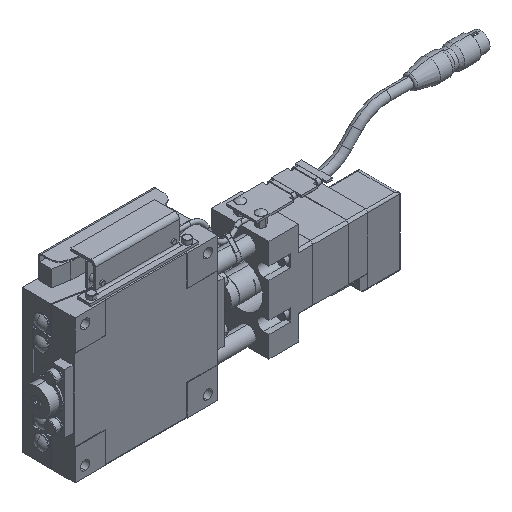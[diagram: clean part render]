
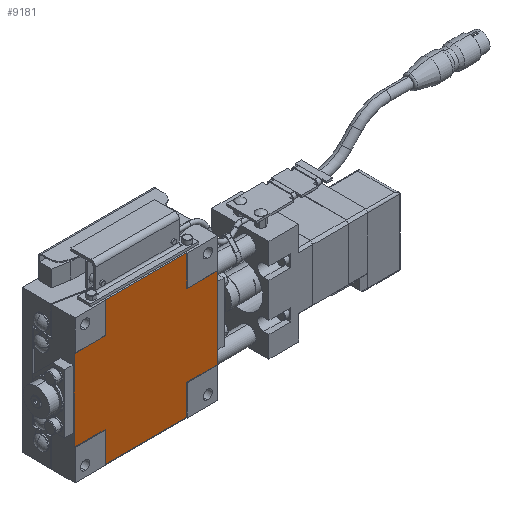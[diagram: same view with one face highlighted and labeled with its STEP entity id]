
A CAD part, isometric view. The second image highlights one B-rep face of the part: STEP entity #9181.
In plain terms, the highlighted planar face has unit normal (0, -1, 0).
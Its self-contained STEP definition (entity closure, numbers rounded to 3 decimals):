
#558 = DIRECTION ( 'NONE',  ( 1., 0., 0. ) ) ;
#786 = VECTOR ( 'NONE', #21781, 1000. ) ;
#1257 = DIRECTION ( 'NONE',  ( 0., 0., -1. ) ) ;
#1358 = ORIENTED_EDGE ( 'NONE', *, *, #14993, .T. ) ;
#1696 = VERTEX_POINT ( 'NONE', #21502 ) ;
#1925 = CARTESIAN_POINT ( 'NONE',  ( 20., 0.3, 20. ) ) ;
#2048 = DIRECTION ( 'NONE',  ( 0., 0., -1. ) ) ;
#2842 = CARTESIAN_POINT ( 'NONE',  ( -35., 0.3, -20. ) ) ;
#4796 = VECTOR ( 'NONE', #558, 1000. ) ;
#5062 = AXIS2_PLACEMENT_3D ( 'NONE', #22531, #22690, #8516 ) ;
#5277 = LINE ( 'NONE', #1925, #42211 ) ;
#5463 = LINE ( 'NONE', #26573, #24969 ) ;
#6609 = VERTEX_POINT ( 'NONE', #32260 ) ;
#7991 = EDGE_CURVE ( 'NONE', #16181, #26154, #29300, .T. ) ;
#8516 = DIRECTION ( 'NONE',  ( -1., 0., 0. ) ) ;
#8771 = DIRECTION ( 'NONE',  ( 0., 0., 1. ) ) ;
#8814 = CARTESIAN_POINT ( 'NONE',  ( -20., 0.3, 35. ) ) ;
#9181 = ADVANCED_FACE ( 'NONE', ( #11298 ), #19421, .F. ) ;
#9182 = DIRECTION ( 'NONE',  ( -1., 0., 0. ) ) ;
#9793 = ORIENTED_EDGE ( 'NONE', *, *, #33744, .T. ) ;
#10070 = EDGE_CURVE ( 'NONE', #6609, #40989, #27465, .T. ) ;
#11298 = FACE_OUTER_BOUND ( 'NONE', #45358, .T. ) ;
#12251 = CARTESIAN_POINT ( 'NONE',  ( -20., 0.3, -35. ) ) ;
#12277 = EDGE_CURVE ( 'NONE', #44286, #1696, #29457, .T. ) ;
#12953 = DIRECTION ( 'NONE',  ( 0., 0., 1. ) ) ;
#13042 = LINE ( 'NONE', #43147, #20801 ) ;
#13153 = LINE ( 'NONE', #44402, #38318 ) ;
#13569 = EDGE_CURVE ( 'NONE', #38823, #16181, #43870, .T. ) ;
#13985 = CARTESIAN_POINT ( 'NONE',  ( -35., 0.3, 20. ) ) ;
#14628 = EDGE_CURVE ( 'NONE', #26154, #17227, #32602, .T. ) ;
#14993 = EDGE_CURVE ( 'NONE', #27059, #44286, #13042, .T. ) ;
#15077 = CARTESIAN_POINT ( 'NONE',  ( 35., 0.3, -20. ) ) ;
#16181 = VERTEX_POINT ( 'NONE', #40412 ) ;
#17227 = VERTEX_POINT ( 'NONE', #33855 ) ;
#18128 = VERTEX_POINT ( 'NONE', #45424 ) ;
#18811 = DIRECTION ( 'NONE',  ( 1., 0., 0. ) ) ;
#19421 = PLANE ( 'NONE',  #5062 ) ;
#19943 = CARTESIAN_POINT ( 'NONE',  ( 20., 0.3, 35. ) ) ;
#20801 = VECTOR ( 'NONE', #32174, 1000. ) ;
#21502 = CARTESIAN_POINT ( 'NONE',  ( -20., 0.3, 35. ) ) ;
#21781 = DIRECTION ( 'NONE',  ( 0., 0., -1. ) ) ;
#21878 = ORIENTED_EDGE ( 'NONE', *, *, #14628, .T. ) ;
#21925 = CARTESIAN_POINT ( 'NONE',  ( 20., 0.3, -20. ) ) ;
#22378 = VERTEX_POINT ( 'NONE', #15077 ) ;
#22386 = ORIENTED_EDGE ( 'NONE', *, *, #13569, .T. ) ;
#22481 = EDGE_CURVE ( 'NONE', #22378, #18128, #13153, .T. ) ;
#22531 = CARTESIAN_POINT ( 'NONE',  ( 0., 0.3, 0. ) ) ;
#22690 = DIRECTION ( 'NONE',  ( 0., 1., 0. ) ) ;
#22823 = CARTESIAN_POINT ( 'NONE',  ( -35., 0.3, -20. ) ) ;
#23046 = CARTESIAN_POINT ( 'NONE',  ( -35., 0.3, 20. ) ) ;
#23165 = EDGE_CURVE ( 'NONE', #1696, #6609, #5463, .T. ) ;
#23425 = CARTESIAN_POINT ( 'NONE',  ( -20., 0.3, -35. ) ) ;
#23463 = DIRECTION ( 'NONE',  ( 1., 0., 0. ) ) ;
#24149 = CARTESIAN_POINT ( 'NONE',  ( 20., 0.3, -35. ) ) ;
#24954 = VECTOR ( 'NONE', #37441, 1000. ) ;
#24969 = VECTOR ( 'NONE', #2048, 1000. ) ;
#25256 = LINE ( 'NONE', #24149, #32533 ) ;
#25329 = VECTOR ( 'NONE', #18811, 1000. ) ;
#25542 = CARTESIAN_POINT ( 'NONE',  ( -20., 0.3, -35. ) ) ;
#26154 = VERTEX_POINT ( 'NONE', #23425 ) ;
#26573 = CARTESIAN_POINT ( 'NONE',  ( -20., 0.3, 20. ) ) ;
#26791 = EDGE_CURVE ( 'NONE', #17227, #38322, #25256, .T. ) ;
#27059 = VERTEX_POINT ( 'NONE', #39954 ) ;
#27465 = LINE ( 'NONE', #23046, #33042 ) ;
#27547 = ORIENTED_EDGE ( 'NONE', *, *, #7991, .T. ) ;
#28648 = ORIENTED_EDGE ( 'NONE', *, *, #23165, .T. ) ;
#28787 = ORIENTED_EDGE ( 'NONE', *, *, #46374, .T. ) ;
#29300 = LINE ( 'NONE', #12251, #37726 ) ;
#29457 = LINE ( 'NONE', #8814, #24954 ) ;
#31629 = LINE ( 'NONE', #21925, #4796 ) ;
#32044 = LINE ( 'NONE', #42961, #786 ) ;
#32174 = DIRECTION ( 'NONE',  ( 0., 0., 1. ) ) ;
#32260 = CARTESIAN_POINT ( 'NONE',  ( -20., 0.3, 20. ) ) ;
#32533 = VECTOR ( 'NONE', #12953, 1000. ) ;
#32602 = LINE ( 'NONE', #25542, #25329 ) ;
#33042 = VECTOR ( 'NONE', #9182, 1000. ) ;
#33261 = ORIENTED_EDGE ( 'NONE', *, *, #12277, .T. ) ;
#33744 = EDGE_CURVE ( 'NONE', #40989, #38823, #32044, .T. ) ;
#33855 = CARTESIAN_POINT ( 'NONE',  ( 20., 0.3, -35. ) ) ;
#34088 = EDGE_CURVE ( 'NONE', #18128, #27059, #5277, .T. ) ;
#37441 = DIRECTION ( 'NONE',  ( -1., 0., 0. ) ) ;
#37726 = VECTOR ( 'NONE', #1257, 1000. ) ;
#38318 = VECTOR ( 'NONE', #8771, 1000. ) ;
#38322 = VERTEX_POINT ( 'NONE', #42622 ) ;
#38823 = VERTEX_POINT ( 'NONE', #2842 ) ;
#39026 = ORIENTED_EDGE ( 'NONE', *, *, #26791, .T. ) ;
#39954 = CARTESIAN_POINT ( 'NONE',  ( 20., 0.3, 20. ) ) ;
#40412 = CARTESIAN_POINT ( 'NONE',  ( -20., 0.3, -20. ) ) ;
#40989 = VERTEX_POINT ( 'NONE', #13985 ) ;
#41337 = ORIENTED_EDGE ( 'NONE', *, *, #10070, .T. ) ;
#42211 = VECTOR ( 'NONE', #45260, 1000. ) ;
#42622 = CARTESIAN_POINT ( 'NONE',  ( 20., 0.3, -20. ) ) ;
#42961 = CARTESIAN_POINT ( 'NONE',  ( -35., 0.3, 20. ) ) ;
#43147 = CARTESIAN_POINT ( 'NONE',  ( 20., 0.3, 20. ) ) ;
#43870 = LINE ( 'NONE', #22823, #44404 ) ;
#44286 = VERTEX_POINT ( 'NONE', #19943 ) ;
#44402 = CARTESIAN_POINT ( 'NONE',  ( 35., 0.3, 20. ) ) ;
#44404 = VECTOR ( 'NONE', #23463, 1000. ) ;
#44932 = ORIENTED_EDGE ( 'NONE', *, *, #34088, .T. ) ;
#45260 = DIRECTION ( 'NONE',  ( -1., 0., 0. ) ) ;
#45358 = EDGE_LOOP ( 'NONE', ( #28787, #45848, #44932, #1358, #33261, #28648, #41337, #9793, #22386, #27547, #21878, #39026 ) ) ;
#45424 = CARTESIAN_POINT ( 'NONE',  ( 35., 0.3, 20. ) ) ;
#45848 = ORIENTED_EDGE ( 'NONE', *, *, #22481, .T. ) ;
#46374 = EDGE_CURVE ( 'NONE', #38322, #22378, #31629, .T. ) ;
